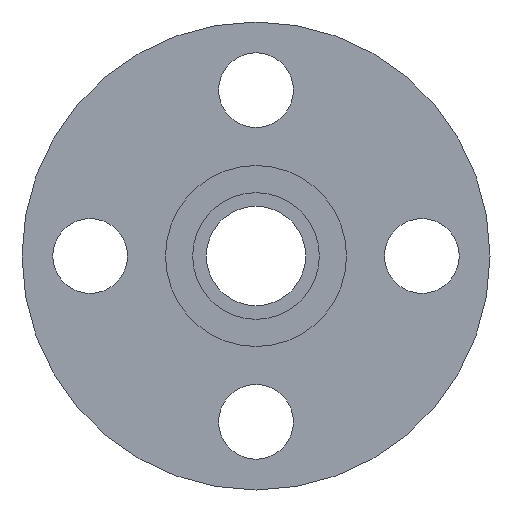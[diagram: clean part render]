
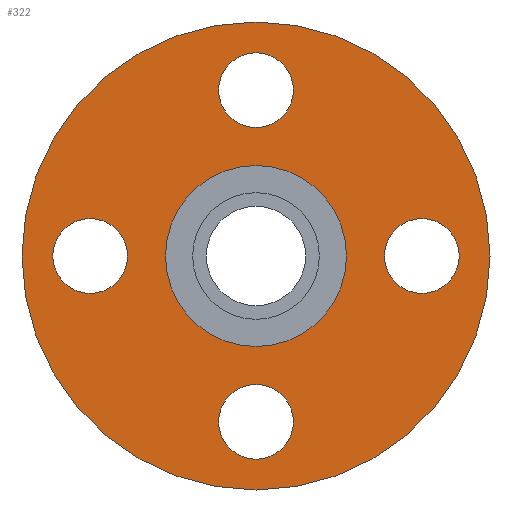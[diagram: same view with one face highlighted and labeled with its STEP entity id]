
A CAD part, left-side view. The second image highlights one B-rep face of the part: STEP entity #322.
In plain terms, the highlighted planar face has unit normal (-1, 0, 0).
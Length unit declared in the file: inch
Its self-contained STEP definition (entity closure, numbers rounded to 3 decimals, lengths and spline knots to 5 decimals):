
#14=FACE_BOUND('',#56,.T.);
#15=FACE_BOUND('',#57,.T.);
#16=FACE_BOUND('',#58,.T.);
#17=FACE_BOUND('',#59,.T.);
#18=FACE_BOUND('',#60,.T.);
#28=PLANE('',#370);
#39=FACE_OUTER_BOUND('',#55,.T.);
#55=EDGE_LOOP('',(#228,#229));
#56=EDGE_LOOP('',(#230));
#57=EDGE_LOOP('',(#231));
#58=EDGE_LOOP('',(#232));
#59=EDGE_LOOP('',(#233));
#60=EDGE_LOOP('',(#234,#235));
#101=CIRCLE('',#355,0.31);
#103=CIRCLE('',#358,0.31);
#105=CIRCLE('',#361,0.31);
#107=CIRCLE('',#364,0.31);
#108=CIRCLE('',#366,1.94);
#109=CIRCLE('',#367,1.94);
#112=CIRCLE('',#371,0.75);
#113=CIRCLE('',#372,0.75);
#133=VERTEX_POINT('',#513);
#135=VERTEX_POINT('',#519);
#137=VERTEX_POINT('',#525);
#139=VERTEX_POINT('',#531);
#140=VERTEX_POINT('',#535);
#141=VERTEX_POINT('',#536);
#144=VERTEX_POINT('',#545);
#145=VERTEX_POINT('',#546);
#166=EDGE_CURVE('',#133,#133,#101,.T.);
#169=EDGE_CURVE('',#135,#135,#103,.T.);
#172=EDGE_CURVE('',#137,#137,#105,.T.);
#175=EDGE_CURVE('',#139,#139,#107,.T.);
#176=EDGE_CURVE('',#140,#141,#108,.T.);
#177=EDGE_CURVE('',#141,#140,#109,.T.);
#181=EDGE_CURVE('',#144,#145,#112,.T.);
#182=EDGE_CURVE('',#145,#144,#113,.T.);
#228=ORIENTED_EDGE('',*,*,#176,.T.);
#229=ORIENTED_EDGE('',*,*,#177,.T.);
#230=ORIENTED_EDGE('',*,*,#166,.T.);
#231=ORIENTED_EDGE('',*,*,#169,.T.);
#232=ORIENTED_EDGE('',*,*,#172,.T.);
#233=ORIENTED_EDGE('',*,*,#175,.T.);
#234=ORIENTED_EDGE('',*,*,#181,.F.);
#235=ORIENTED_EDGE('',*,*,#182,.F.);
#322=ADVANCED_FACE('',(#39,#14,#15,#16,#17,#18),#28,.T.);
#355=AXIS2_PLACEMENT_3D('',#515,#408,#409);
#358=AXIS2_PLACEMENT_3D('',#521,#415,#416);
#361=AXIS2_PLACEMENT_3D('',#527,#422,#423);
#364=AXIS2_PLACEMENT_3D('',#533,#429,#430);
#366=AXIS2_PLACEMENT_3D('',#537,#433,#434);
#367=AXIS2_PLACEMENT_3D('',#538,#435,#436);
#370=AXIS2_PLACEMENT_3D('',#544,#442,#443);
#371=AXIS2_PLACEMENT_3D('',#547,#444,#445);
#372=AXIS2_PLACEMENT_3D('',#548,#446,#447);
#408=DIRECTION('center_axis',(1.,0.,0.));
#409=DIRECTION('ref_axis',(0.,-1.,0.));
#415=DIRECTION('center_axis',(1.,0.,0.));
#416=DIRECTION('ref_axis',(0.,0.,-1.));
#422=DIRECTION('center_axis',(1.,0.,0.));
#423=DIRECTION('ref_axis',(0.,1.,0.));
#429=DIRECTION('center_axis',(1.,0.,0.));
#430=DIRECTION('ref_axis',(0.,0.,1.));
#433=DIRECTION('center_axis',(-1.,0.,0.));
#434=DIRECTION('ref_axis',(0.,0.,1.));
#435=DIRECTION('center_axis',(-1.,0.,0.));
#436=DIRECTION('ref_axis',(0.,0.,1.));
#442=DIRECTION('center_axis',(-1.,0.,0.));
#443=DIRECTION('ref_axis',(0.,0.,1.));
#444=DIRECTION('center_axis',(-1.,0.,0.));
#445=DIRECTION('ref_axis',(0.,0.,1.));
#446=DIRECTION('center_axis',(-1.,0.,0.));
#447=DIRECTION('ref_axis',(0.,0.,1.));
#513=CARTESIAN_POINT('',(-0.5,1.685,0.));
#515=CARTESIAN_POINT('Origin',(-0.5,1.375,0.));
#519=CARTESIAN_POINT('',(-0.5,0.,1.685));
#521=CARTESIAN_POINT('Origin',(-0.5,0.,1.375));
#525=CARTESIAN_POINT('',(-0.5,-1.685,0.));
#527=CARTESIAN_POINT('Origin',(-0.5,-1.375,0.));
#531=CARTESIAN_POINT('',(-0.5,0.,-1.685));
#533=CARTESIAN_POINT('Origin',(-0.5,0.,-1.375));
#535=CARTESIAN_POINT('',(-0.5,0.,1.94));
#536=CARTESIAN_POINT('',(-0.5,0.,-1.94));
#537=CARTESIAN_POINT('Origin',(-0.5,0.,0.));
#538=CARTESIAN_POINT('Origin',(-0.5,0.,0.));
#544=CARTESIAN_POINT('Origin',(-0.5,0.,1.345));
#545=CARTESIAN_POINT('',(-0.5,0.,0.75));
#546=CARTESIAN_POINT('',(-0.5,0.,-0.75));
#547=CARTESIAN_POINT('Origin',(-0.5,0.,0.));
#548=CARTESIAN_POINT('Origin',(-0.5,0.,0.));
